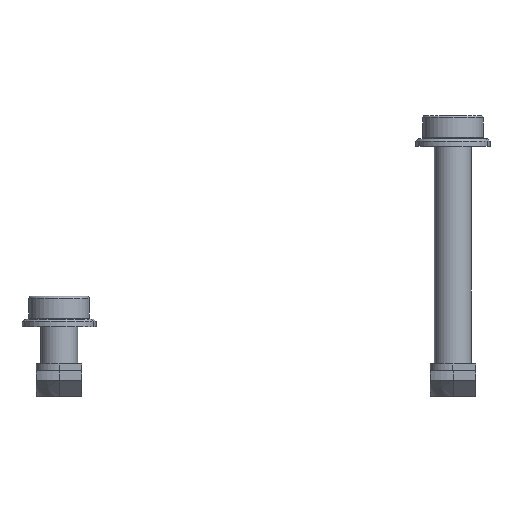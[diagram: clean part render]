
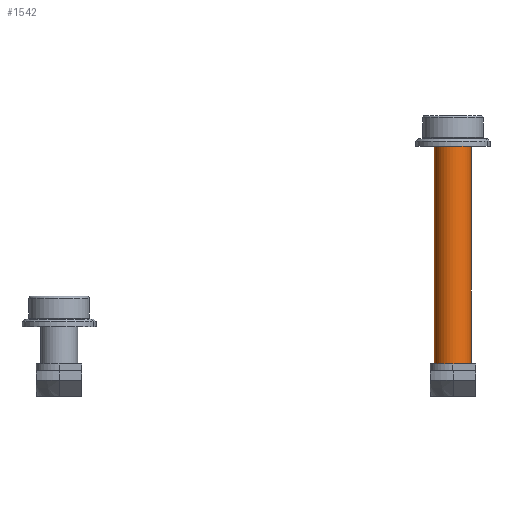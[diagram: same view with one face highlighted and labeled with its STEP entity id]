
A CAD part, front view. The second image highlights one B-rep face of the part: STEP entity #1542.
In plain terms, the highlighted cylindrical face has radius 4 mm (diameter 8 mm), a partial arc.
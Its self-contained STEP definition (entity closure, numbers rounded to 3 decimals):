
#50 = ORIENTED_EDGE ( 'NONE', *, *, #2901, .F. ) ;
#161 = DIRECTION ( 'NONE',  ( 0., 0., 1. ) ) ;
#200 = ORIENTED_EDGE ( 'NONE', *, *, #2231, .T. ) ;
#257 = LINE ( 'NONE', #3111, #939 ) ;
#290 = CIRCLE ( 'NONE', #2937, 4. ) ;
#406 = VERTEX_POINT ( 'NONE', #857 ) ;
#468 = EDGE_CURVE ( 'NONE', #3076, #406, #290, .T. ) ;
#477 = AXIS2_PLACEMENT_3D ( 'NONE', #2553, #1091, #3016 ) ;
#696 = DIRECTION ( 'NONE',  ( 0., 0., 1. ) ) ;
#698 = EDGE_CURVE ( 'NONE', #406, #1974, #257, .T. ) ;
#855 = CARTESIAN_POINT ( 'NONE',  ( 4., 0., 0. ) ) ;
#857 = CARTESIAN_POINT ( 'NONE',  ( 4., 0., -54.25 ) ) ;
#939 = VECTOR ( 'NONE', #1256, 1000. ) ;
#1081 = CARTESIAN_POINT ( 'NONE',  ( 0., 0., -55. ) ) ;
#1091 = DIRECTION ( 'NONE',  ( 0., 0., -1. ) ) ;
#1256 = DIRECTION ( 'NONE',  ( 0., 0., 1. ) ) ;
#1485 = CARTESIAN_POINT ( 'NONE',  ( -4., 0., -54.25 ) ) ;
#1542 = ADVANCED_FACE ( 'NONE', ( #2766 ), #1868, .T. ) ;
#1552 = DIRECTION ( 'NONE',  ( -1., 0., 0. ) ) ;
#1598 = VECTOR ( 'NONE', #161, 1000. ) ;
#1637 = EDGE_LOOP ( 'NONE', ( #50, #2630, #2757, #200 ) ) ;
#1868 = CYLINDRICAL_SURFACE ( 'NONE', #1970, 4. ) ;
#1956 = DIRECTION ( 'NONE',  ( 0., 0., 1. ) ) ;
#1970 = AXIS2_PLACEMENT_3D ( 'NONE', #1081, #696, #3041 ) ;
#1974 = VERTEX_POINT ( 'NONE', #855 ) ;
#2197 = CARTESIAN_POINT ( 'NONE',  ( 0., 0., -54.25 ) ) ;
#2231 = EDGE_CURVE ( 'NONE', #1974, #2691, #2677, .T. ) ;
#2553 = CARTESIAN_POINT ( 'NONE',  ( 0., 0., 0. ) ) ;
#2601 = LINE ( 'NONE', #3091, #1598 ) ;
#2630 = ORIENTED_EDGE ( 'NONE', *, *, #468, .T. ) ;
#2677 = CIRCLE ( 'NONE', #477, 4. ) ;
#2691 = VERTEX_POINT ( 'NONE', #2990 ) ;
#2757 = ORIENTED_EDGE ( 'NONE', *, *, #698, .T. ) ;
#2766 = FACE_OUTER_BOUND ( 'NONE', #1637, .T. ) ;
#2901 = EDGE_CURVE ( 'NONE', #3076, #2691, #2601, .T. ) ;
#2937 = AXIS2_PLACEMENT_3D ( 'NONE', #2197, #1956, #1552 ) ;
#2990 = CARTESIAN_POINT ( 'NONE',  ( -4., 0., 0. ) ) ;
#3016 = DIRECTION ( 'NONE',  ( -1., 0., 0. ) ) ;
#3041 = DIRECTION ( 'NONE',  ( 1., 0., 0. ) ) ;
#3076 = VERTEX_POINT ( 'NONE', #1485 ) ;
#3091 = CARTESIAN_POINT ( 'NONE',  ( -4., 0., -55. ) ) ;
#3111 = CARTESIAN_POINT ( 'NONE',  ( 4., 0., -55. ) ) ;
